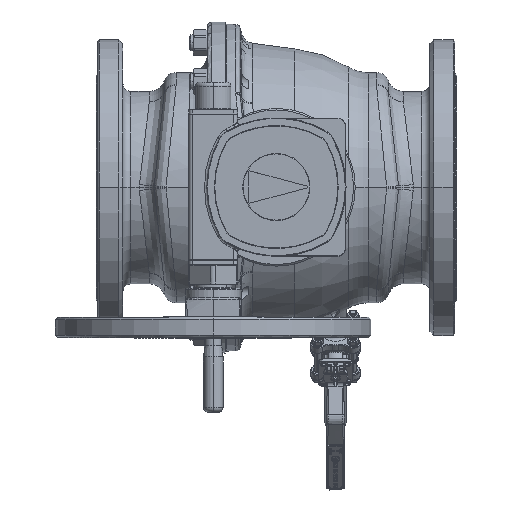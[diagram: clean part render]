
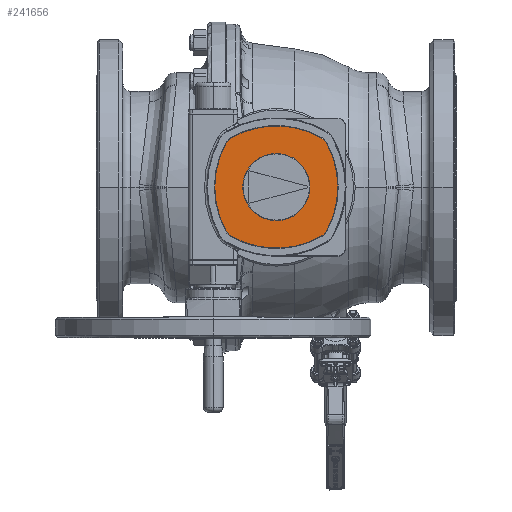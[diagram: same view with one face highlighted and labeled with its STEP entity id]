
A CAD part, top view. The second image highlights one B-rep face of the part: STEP entity #241656.
In plain terms, the highlighted planar face has unit normal (0, 0, 1).
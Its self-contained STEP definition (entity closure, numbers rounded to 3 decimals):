
#223971=CARTESIAN_POINT('',(0.,-37.5,190.));
#223972=DIRECTION('',(0.,0.,-1.));
#223973=DIRECTION('',(-0.502,0.865,0.));
#223974=AXIS2_PLACEMENT_3D('',#223971,#223972,#223973);
#223985=CARTESIAN_POINT('',(50.17,49.004,190.));
#223986=DIRECTION('',(0.,0.,1.));
#223987=DIRECTION('',(0.872,0.49,0.));
#223988=AXIS2_PLACEMENT_3D('',#223985,#223986,#223987);
#223999=CARTESIAN_POINT('',(-37.,0.,190.));
#224000=DIRECTION('',(0.,0.,-1.));
#224001=DIRECTION('',(0.872,0.49,0.));
#224002=AXIS2_PLACEMENT_3D('',#223999,#224000,#224001);
#224013=CARTESIAN_POINT('',(50.17,-49.004,190.));
#224014=DIRECTION('',(0.,0.,1.));
#224015=DIRECTION('',(0.502,-0.865,0.));
#224016=AXIS2_PLACEMENT_3D('',#224013,#224014,#224015);
#224027=CARTESIAN_POINT('',(0.,37.5,190.));
#224028=DIRECTION('',(0.,0.,-1.));
#224029=DIRECTION('',(0.502,-0.865,0.));
#224030=AXIS2_PLACEMENT_3D('',#224027,#224028,#224029);
#224041=CARTESIAN_POINT('',(-50.17,-49.004,190.));
#224042=DIRECTION('',(0.,0.,1.));
#224043=DIRECTION('',(-0.872,-0.49,0.));
#224044=AXIS2_PLACEMENT_3D('',#224041,#224042,#224043);
#224055=CARTESIAN_POINT('',(37.,0.,190.));
#224056=DIRECTION('',(0.,0.,-1.));
#224057=DIRECTION('',(-0.872,-0.49,0.));
#224058=AXIS2_PLACEMENT_3D('',#224055,#224056,#224057);
#224069=CARTESIAN_POINT('',(-50.17,49.004,190.));
#224070=DIRECTION('',(0.,0.,1.));
#224071=DIRECTION('',(-0.502,0.865,0.));
#224072=AXIS2_PLACEMENT_3D('',#224069,#224070,#224071);
#224074=CARTESIAN_POINT('',(0.,0.,190.));
#224075=DIRECTION('',(0.,0.,1.));
#224076=DIRECTION('',(-1.,0.,0.));
#224077=AXIS2_PLACEMENT_3D('',#224074,#224075,#224076);
#224079=CARTESIAN_POINT('',(0.,0.,190.));
#224080=DIRECTION('',(0.,0.,1.));
#224081=DIRECTION('',(1.,0.,0.));
#224082=AXIS2_PLACEMENT_3D('',#224079,#224080,#224081);
#228961=CARTESIAN_POINT('',(-42.5,0.,190.));
#228962=CARTESIAN_POINT('',(42.5,0.,190.));
#228963=VERTEX_POINT('',#228961);
#228964=VERTEX_POINT('',#228962);
#228965=CARTESIAN_POINT('',(57.695,-61.98,190.));
#228966=CARTESIAN_POINT('',(63.245,-56.355,190.));
#228967=VERTEX_POINT('',#228965);
#228968=VERTEX_POINT('',#228966);
#228969=CARTESIAN_POINT('',(63.245,56.355,190.));
#228970=VERTEX_POINT('',#228969);
#228971=CARTESIAN_POINT('',(57.695,61.98,190.));
#228972=VERTEX_POINT('',#228971);
#228973=CARTESIAN_POINT('',(-57.695,61.98,190.));
#228974=VERTEX_POINT('',#228973);
#228975=CARTESIAN_POINT('',(-63.245,56.355,190.));
#228976=VERTEX_POINT('',#228975);
#228977=CARTESIAN_POINT('',(-63.245,-56.355,190.));
#228978=VERTEX_POINT('',#228977);
#228979=CARTESIAN_POINT('',(-57.695,-61.98,190.));
#228980=VERTEX_POINT('',#228979);
#241635=CARTESIAN_POINT('',(0.,0.,190.));
#241636=DIRECTION('',(0.,0.,1.));
#241637=DIRECTION('',(1.,0.,0.));
#241638=AXIS2_PLACEMENT_3D('',#241635,#241636,#241637);
#241639=PLANE('',#241638);
#241640=ORIENTED_EDGE('',*,*,#241574,.F.);
#241641=ORIENTED_EDGE('',*,*,#241588,.T.);
#241642=ORIENTED_EDGE('',*,*,#241602,.F.);
#241643=ORIENTED_EDGE('',*,*,#241616,.T.);
#241644=ORIENTED_EDGE('',*,*,#241629,.F.);
#241645=ORIENTED_EDGE('',*,*,#241531,.T.);
#241646=ORIENTED_EDGE('',*,*,#241546,.F.);
#241647=ORIENTED_EDGE('',*,*,#241560,.T.);
#241648=EDGE_LOOP('',(#241640,#241641,#241642,#241643,#241644,#241645,#241646,
#241647));
#241649=FACE_OUTER_BOUND('',#241648,.F.);
#241651=ORIENTED_EDGE('',*,*,#241650,.T.);
#241653=ORIENTED_EDGE('',*,*,#241652,.T.);
#241654=EDGE_LOOP('',(#241651,#241653));
#241655=FACE_BOUND('',#241654,.F.);
#241656=ADVANCED_FACE('',(#241649,#241655),#241639,.T.);
#223975=CIRCLE('',#223974,115.);
#223989=CIRCLE('',#223988,15.);
#224003=CIRCLE('',#224002,115.);
#224017=CIRCLE('',#224016,15.);
#224031=CIRCLE('',#224030,115.);
#224045=CIRCLE('',#224044,15.);
#224059=CIRCLE('',#224058,115.);
#224073=CIRCLE('',#224072,15.);
#224078=CIRCLE('',#224077,42.5);
#224083=CIRCLE('',#224082,42.5);
#241531=EDGE_CURVE('',#228974,#228972,#223975,.T.);
#241546=EDGE_CURVE('',#228970,#228972,#223989,.T.);
#241560=EDGE_CURVE('',#228970,#228968,#224003,.T.);
#241574=EDGE_CURVE('',#228967,#228968,#224017,.T.);
#241588=EDGE_CURVE('',#228967,#228980,#224031,.T.);
#241602=EDGE_CURVE('',#228978,#228980,#224045,.T.);
#241616=EDGE_CURVE('',#228978,#228976,#224059,.T.);
#241629=EDGE_CURVE('',#228974,#228976,#224073,.T.);
#241650=EDGE_CURVE('',#228963,#228964,#224078,.T.);
#241652=EDGE_CURVE('',#228964,#228963,#224083,.T.);
